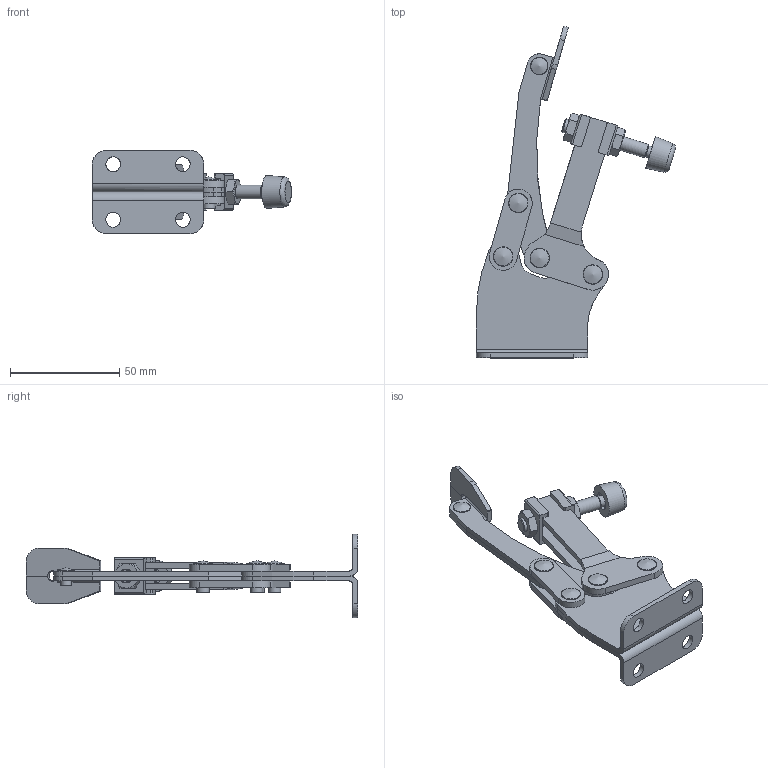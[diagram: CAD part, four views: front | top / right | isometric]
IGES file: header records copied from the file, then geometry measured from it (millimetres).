
Global section: file name: H-400x20 Open; native system: Autodesk RealDWG; preprocessor: Autodesk Translation Framework DWG producer (atf_dwg_producer); author: rtaylor; organization: unknown; date: 20151021.123719; units: inch
Bounding box: 90.92 x 151.59 x 38.1 mm (x, y, z)
Volume: 37575.6 mm3; surface area: 36493.7 mm2
Topology: 19 solids, 19 shells, 308 faces, 815 edges, 552 vertices
Faces by surface type: bspline 308
